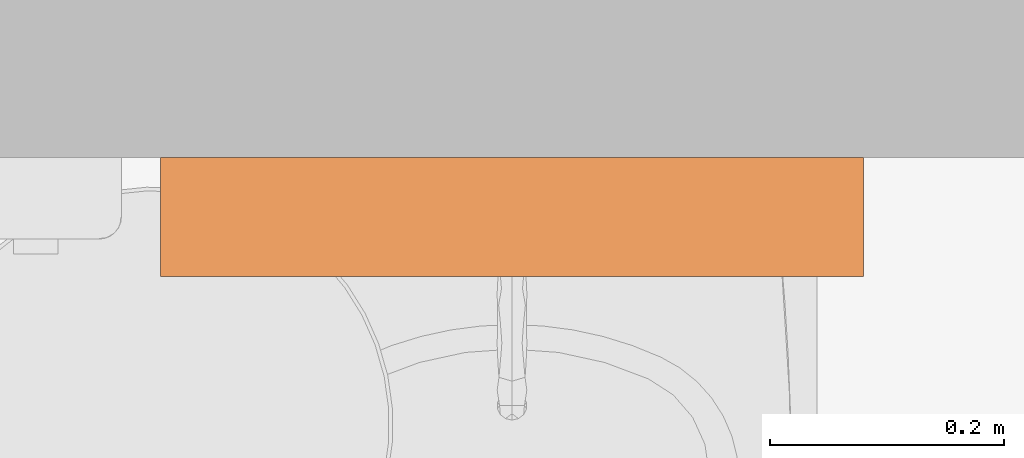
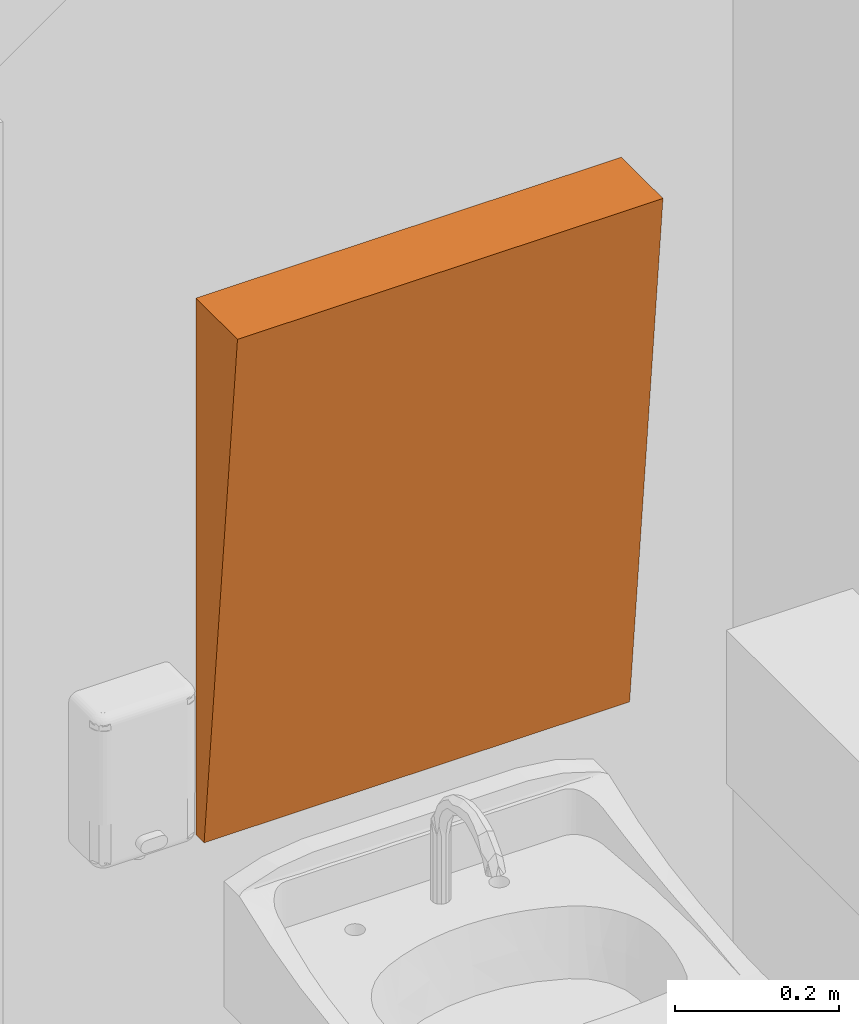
# One storey, part 43 of 142: 1 proxy.
"""IFC2X3 building model written with IfcOpenShell, lengths in feet."""

from ifc_helpers import new_model, entity, si_unit, converted_unit, derived_unit, direction, frame, origin, place, context, subcontext, project, spatial, polyline, outline, extrude, source, transform, mapped, type_object, type_shapes, element, save


model = new_model("IFC2X3")

# Units and contexts
model_context = context("Model", 3, precision=0.0001, world=origin(), true_north=direction((6.12303176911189e-17, 1.0)))
body_context = subcontext(model_context, "Body", "Model", "MODEL_VIEW")
ifc_project = project(units=[converted_unit("LENGTHUNIT", "FOOT", entity("IfcRatioMeasure", 0.3048), si_unit("LENGTHUNIT", "METRE"), dimensions=[1, 0, 0, 0, 0, 0, 0]), converted_unit("AREAUNIT", "SQUARE FOOT", entity("IfcRatioMeasure", 0.09290304), si_unit("AREAUNIT", "SQUARE_METRE"), dimensions=[2, 0, 0, 0, 0, 0, 0]), converted_unit("VOLUMEUNIT", "CUBIC FOOT", entity("IfcRatioMeasure", 0.028316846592), si_unit("VOLUMEUNIT", "CUBIC_METRE"), dimensions=[3, 0, 0, 0, 0, 0, 0]), converted_unit("PLANEANGLEUNIT", "DEGREE", entity("IfcRatioMeasure", 0.0174532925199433), si_unit("PLANEANGLEUNIT", "RADIAN"), dimensions=[0, 0, 0, 0, 0, 0, 0]), si_unit("MASSUNIT", "GRAM", prefix="KILO"), derived_unit("MASSDENSITYUNIT", [(si_unit("MASSUNIT", "GRAM", prefix="KILO"), 1), (si_unit("LENGTHUNIT", "METRE"), -3)]), si_unit("TIMEUNIT", "SECOND"), si_unit("FREQUENCYUNIT", "HERTZ"), si_unit("THERMODYNAMICTEMPERATUREUNIT", "DEGREE_CELSIUS"), derived_unit("THERMALTRANSMITTANCEUNIT", [(si_unit("MASSUNIT", "GRAM", prefix="KILO"), 1), (si_unit("THERMODYNAMICTEMPERATUREUNIT", "KELVIN"), -1), (si_unit("TIMEUNIT", "SECOND"), -3)]), derived_unit("VOLUMETRICFLOWRATEUNIT", [(si_unit("LENGTHUNIT", "METRE"), 3), (si_unit("TIMEUNIT", "SECOND"), -1)]), si_unit("ELECTRICCURRENTUNIT", "AMPERE"), si_unit("ELECTRICVOLTAGEUNIT", "VOLT"), si_unit("POWERUNIT", "WATT"), si_unit("FORCEUNIT", "NEWTON"), si_unit("ILLUMINANCEUNIT", "LUX"), si_unit("LUMINOUSFLUXUNIT", "LUMEN"), si_unit("LUMINOUSINTENSITYUNIT", "CANDELA"), derived_unit("USERDEFINED", [(si_unit("MASSUNIT", "GRAM", prefix="KILO"), -1), (si_unit("LENGTHUNIT", "METRE"), -2), (si_unit("TIMEUNIT", "SECOND"), 3), (si_unit("LUMINOUSFLUXUNIT", "LUMEN"), 1)]), derived_unit("LINEARVELOCITYUNIT", [(si_unit("LENGTHUNIT", "METRE"), 1), (si_unit("TIMEUNIT", "SECOND"), -1)]), si_unit("PRESSUREUNIT", "PASCAL"), derived_unit("USERDEFINED", [(si_unit("LENGTHUNIT", "METRE"), -2), (si_unit("MASSUNIT", "GRAM", prefix="KILO"), 1), (si_unit("TIMEUNIT", "SECOND"), -2)])], contexts=[model_context])

# Site, building, storey, space
site_placement = place(None, origin())
site = spatial("IfcSite", under=ifc_project, at=site_placement, Name="Default", CompositionType="ELEMENT")
building_placement = place(site_placement, origin())
building = spatial("IfcBuilding", under=site, at=building_placement, Name="OUTPATIENT / PACT CLINIC (Ch. 265)", CompositionType="ELEMENT")
storey_placement = place(building_placement, origin())
storey = spatial("IfcBuildingStorey", under=building, at=storey_placement, Name="LEVEL 1", CompositionType="ELEMENT", Elevation=0.0)
space_placement = place(storey_placement, origin())
space = spatial("IfcSpace", under=storey, at=space_placement, Name="TPG01", CompositionType="ELEMENT", InteriorOrExteriorSpace="INTERNAL")

# Proxy
building_element_proxy_type = type_object("IfcBuildingElementProxyType", Name="A1067 - Mirror, Float Glass, ADA Accessible 12\"x 6\"", PredefinedType="NOTDEFINED")
shared_shape = source(origin(), body_context, "Body", "SweptSolid", [
    extrude(outline(polyline([(-0.0997375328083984, -1.31233595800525), (0.233595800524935, -1.31233595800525), (-0.0341207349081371, 1.31233595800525), (-0.0997375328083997, 1.31233595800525), (-0.0997375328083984, -1.31233595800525)])), frame((0.0, -0.0997375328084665, 1.31266404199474), z_axis=(1.0, 0.0, 0.0), x_axis=(0.0, -1.0, 0.0)), (0.0, 0.0, 1.0), 1.96850393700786),
])
type_shapes(building_element_proxy_type, [shared_shape])
proxy_placement = place(space_placement, frame((445.270725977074, -932.045508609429, 3.33333333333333)))
element("IfcBuildingElementProxy", 1, at=proxy_placement, inside=space, type_object=building_element_proxy_type, Name="A1067 - Mirror, Float Glass, ADA Accessible:A1067 - Mirror, Float Glass, ADA Accessible 12\"x 6\"", ObjectType="A1067 - Mirror, Float Glass, ADA Accessible 12\"x 6\"", context=body_context, shape_type="MappedRepresentation", body=[
    mapped(shared_shape, transform((0.0, 0.0, 0.0), scale=1.0)),
])

save(model, "model.ifc")
